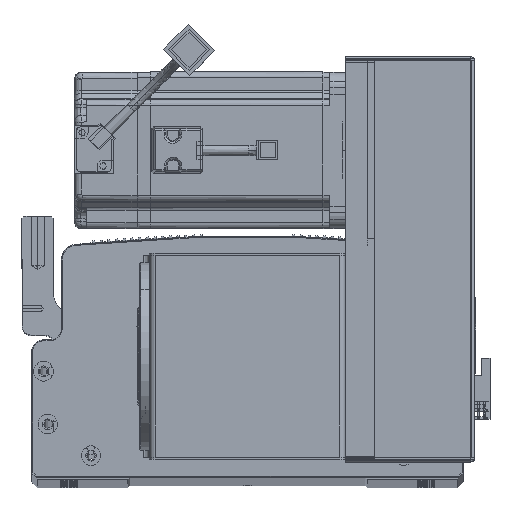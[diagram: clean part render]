
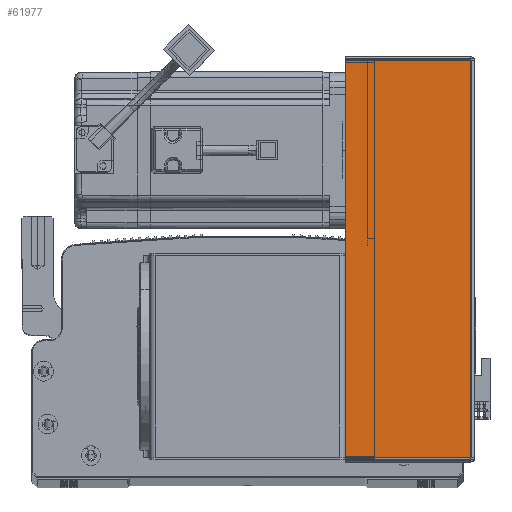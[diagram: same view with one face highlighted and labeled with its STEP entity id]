
A CAD part, top view. The second image highlights one B-rep face of the part: STEP entity #61977.
In plain terms, the highlighted planar face has unit normal (0, 0, 1) as drawn and (0, -1, 0) by its records, which use the part's own axes.
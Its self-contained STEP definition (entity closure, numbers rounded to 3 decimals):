
#315 = LINE ( 'NONE', #26300, #29183 ) ;
#2276 = CARTESIAN_POINT ( 'NONE',  ( 0.737, -1.5, -0.707 ) ) ;
#3554 = DIRECTION ( 'NONE',  ( 1., 0., 0. ) ) ;
#7672 = CARTESIAN_POINT ( 'NONE',  ( 64.5, -1.5, -203.293 ) ) ;
#10401 = VERTEX_POINT ( 'NONE', #2276 ) ;
#10982 = EDGE_CURVE ( 'NONE', #67869, #10401, #315, .T. ) ;
#11872 = PLANE ( 'NONE',  #19825 ) ;
#12052 = LINE ( 'NONE', #84139, #42046 ) ;
#17150 = EDGE_CURVE ( 'NONE', #41701, #37095, #30619, .T. ) ;
#19825 = AXIS2_PLACEMENT_3D ( 'NONE', #78276, #57343, #64137 ) ;
#23746 = EDGE_CURVE ( 'NONE', #67869, #41701, #45391, .T. ) ;
#26300 = CARTESIAN_POINT ( 'NONE',  ( 0.737, -1.5, 0. ) ) ;
#27902 = DIRECTION ( 'NONE',  ( 0., 0., 1. ) ) ;
#29062 = EDGE_CURVE ( 'NONE', #10401, #37095, #12052, .T. ) ;
#29183 = VECTOR ( 'NONE', #79443, 1000. ) ;
#29302 = FACE_OUTER_BOUND ( 'NONE', #66182, .T. ) ;
#30619 = LINE ( 'NONE', #34373, #34049 ) ;
#34049 = VECTOR ( 'NONE', #27902, 1000. ) ;
#34373 = CARTESIAN_POINT ( 'NONE',  ( 64.5, -1.5, 0. ) ) ;
#37095 = VERTEX_POINT ( 'NONE', #47231 ) ;
#38266 = ORIENTED_EDGE ( 'NONE', *, *, #10982, .F. ) ;
#41701 = VERTEX_POINT ( 'NONE', #7672 ) ;
#42046 = VECTOR ( 'NONE', #3554, 1000. ) ;
#45391 = LINE ( 'NONE', #91780, #59262 ) ;
#47231 = CARTESIAN_POINT ( 'NONE',  ( 64.5, -1.5, -0.707 ) ) ;
#53835 = DIRECTION ( 'NONE',  ( 1., 0., 0. ) ) ;
#57343 = DIRECTION ( 'NONE',  ( 0., 1., 0. ) ) ;
#59262 = VECTOR ( 'NONE', #53835, 1000. ) ;
#61977 = ADVANCED_FACE ( 'NONE', ( #29302 ), #11872, .F. ) ;
#64137 = DIRECTION ( 'NONE',  ( -1., 0., 0. ) ) ;
#66182 = EDGE_LOOP ( 'NONE', ( #38266, #92633, #79408, #73363 ) ) ;
#67869 = VERTEX_POINT ( 'NONE', #75706 ) ;
#73363 = ORIENTED_EDGE ( 'NONE', *, *, #29062, .F. ) ;
#75706 = CARTESIAN_POINT ( 'NONE',  ( 0.737, -1.5, -203.293 ) ) ;
#78276 = CARTESIAN_POINT ( 'NONE',  ( 0., -1.5, 0. ) ) ;
#79408 = ORIENTED_EDGE ( 'NONE', *, *, #17150, .T. ) ;
#79443 = DIRECTION ( 'NONE',  ( 0., 0., 1. ) ) ;
#84139 = CARTESIAN_POINT ( 'NONE',  ( 0., -1.5, -0.707 ) ) ;
#91780 = CARTESIAN_POINT ( 'NONE',  ( 0., -1.5, -203.293 ) ) ;
#92633 = ORIENTED_EDGE ( 'NONE', *, *, #23746, .T. ) ;
